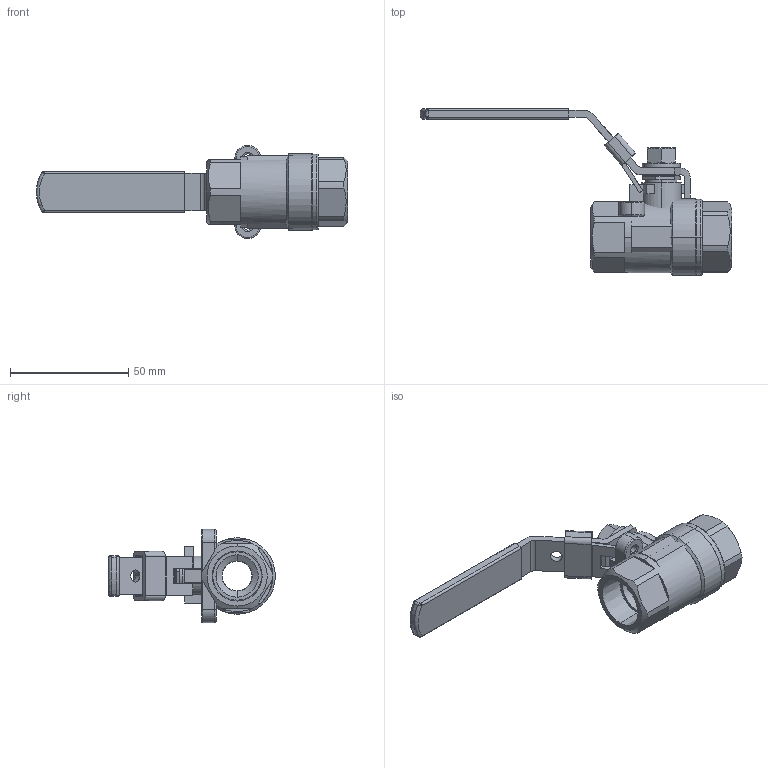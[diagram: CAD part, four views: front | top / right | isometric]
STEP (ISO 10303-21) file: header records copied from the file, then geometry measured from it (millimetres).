
FILE_DESCRIPTION (( 'STEP AP203' ), '1' );
FILE_NAME ('S2S-4.STEP', '2018-07-25T20:14:46', ( '' ), ( '' ), 'SwSTEP 2.0', 'SolidWorks 2017', '' );
FILE_SCHEMA (( 'CONFIG_CONTROL_DESIGN' ));
Length unit declared in the file: inch
Products named in the file (10): m8 HEX NUT_91028A664; S2S-4; lockinghandle-s2s-small; m8 STAINLESS STEEL FLAT WASHER; m8 HEX NUT; S2S-4_1-2<As Machined>; lockinghandle-s2s-small_lock on; m8 STAINLESS STEEL FLAT WASHER_90965A190
Assembly tree (5 placements, depth 2):
  S2S-4
    S2S-4_1-2<As Machined>
    lockinghandle-s2s-small_lock on
    m8 STAINLESS STEEL FLAT WASHER_90965A190
    m8 HEX NUT_91028A664
  S2S-4
  lockinghandle-s2s-small
  m8 STAINLESS STEEL FLAT WASHER
  S2S-4
    m8 HEX NUT
Bounding box: 131.4 x 70.36 x 39.37 mm (x, y, z)
Volume: 44960.1 mm3; surface area: 26119.1 mm2
Topology: 18 solids, 18 shells, 457 faces, 1197 edges, 769 vertices
Faces by surface type: cylinder 141, plane 139, bspline 105, cone 40, torus 28, sphere 4
Entity records: 54548 total; most frequent: CARTESIAN_POINT 43707, ORIENTED_EDGE 2364, DIRECTION 1749, EDGE_CURVE 1182, VERTEX_POINT 761, AXIS2_PLACEMENT_3D 649, EDGE_LOOP 479, FACE_OUTER_BOUND 457
